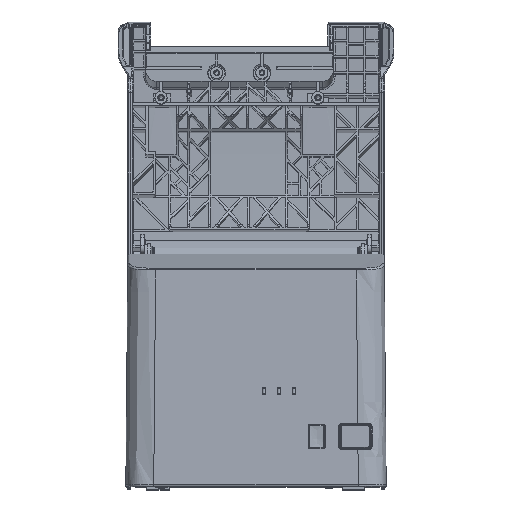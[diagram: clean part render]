
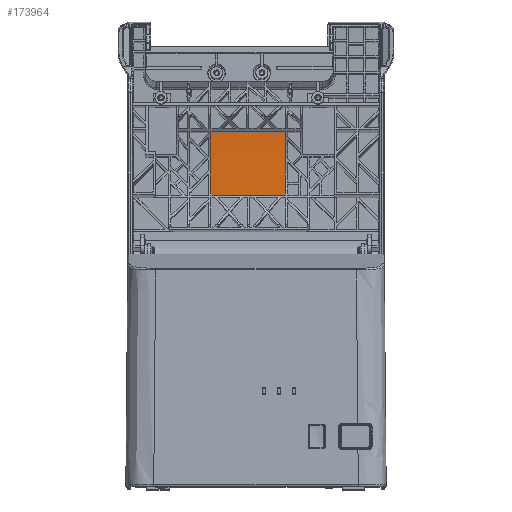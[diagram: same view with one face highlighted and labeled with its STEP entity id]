
A CAD part, top view. The second image highlights one B-rep face of the part: STEP entity #173964.
In plain terms, the highlighted cylindrical face has radius 1097.2 mm (diameter 2194.4 mm), a partial arc.
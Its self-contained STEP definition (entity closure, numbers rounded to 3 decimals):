
#149021=CARTESIAN_POINT('',(-15.3,178.507,900.455));
#149022=DIRECTION('',(1.,0.,0.));
#149023=DIRECTION('',(0.,-0.02,-1.));
#149024=AXIS2_PLACEMENT_3D('',#149021,#149022,#149023);
#149026=DIRECTION('',(1.,0.,0.));
#149027=VECTOR('',#149026,40.);
#149028=CARTESIAN_POINT('',(-15.3,190.267,-196.682));
#149029=LINE('',#149028,#149027);
#149030=CARTESIAN_POINT('',(24.7,178.507,900.455));
#149031=DIRECTION('',(1.,0.,0.));
#149032=DIRECTION('',(0.,-0.02,-1.));
#149033=AXIS2_PLACEMENT_3D('',#149030,#149031,#149032);
#149035=DIRECTION('',(1.,0.,0.));
#149036=VECTOR('',#149035,40.);
#149037=CARTESIAN_POINT('',(-15.3,156.352,-196.522));
#149038=LINE('',#149037,#149036);
#168079=CARTESIAN_POINT('',(-15.3,156.352,-196.522));
#168080=CARTESIAN_POINT('',(-15.3,190.267,-196.682));
#168081=VERTEX_POINT('',#168079);
#168082=VERTEX_POINT('',#168080);
#168091=CARTESIAN_POINT('',(24.7,156.352,-196.522));
#168092=CARTESIAN_POINT('',(24.7,190.267,-196.682));
#168093=VERTEX_POINT('',#168091);
#168094=VERTEX_POINT('',#168092);
#173949=CARTESIAN_POINT('',(-75.1,178.507,900.455));
#173950=DIRECTION('',(1.,0.,0.));
#173951=DIRECTION('',(0.,-0.996,0.087));
#173952=AXIS2_PLACEMENT_3D('',#173949,#173950,#173951);
#173953=CYLINDRICAL_SURFACE('',#173952,1097.2);
#173955=ORIENTED_EDGE('',*,*,#173954,.T.);
#173957=ORIENTED_EDGE('',*,*,#173956,.T.);
#173959=ORIENTED_EDGE('',*,*,#173958,.F.);
#173961=ORIENTED_EDGE('',*,*,#173960,.F.);
#173962=EDGE_LOOP('',(#173955,#173957,#173959,#173961));
#173963=FACE_OUTER_BOUND('',#173962,.F.);
#149025=CIRCLE('',#149024,1097.2);
#149034=CIRCLE('',#149033,1097.2);
#173954=EDGE_CURVE('',#168081,#168082,#149025,.T.);
#173956=EDGE_CURVE('',#168082,#168094,#149029,.T.);
#173958=EDGE_CURVE('',#168093,#168094,#149034,.T.);
#173960=EDGE_CURVE('',#168081,#168093,#149038,.T.);
#173964=ADVANCED_FACE('',(#173963),#173953,.F.);
